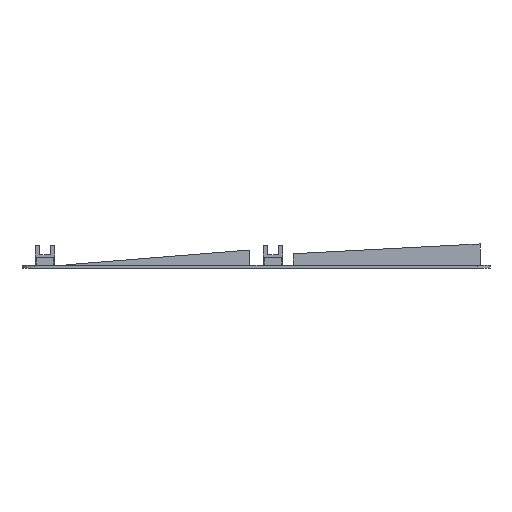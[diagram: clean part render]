
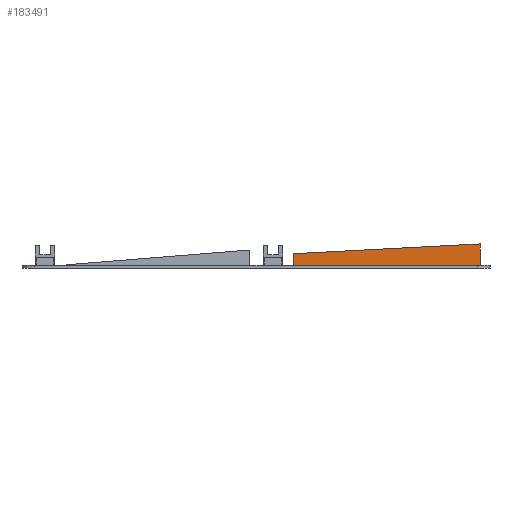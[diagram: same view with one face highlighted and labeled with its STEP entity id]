
A CAD part, left-side view. The second image highlights one B-rep face of the part: STEP entity #183491.
In plain terms, the highlighted planar face has unit normal (-1, 0, 0).
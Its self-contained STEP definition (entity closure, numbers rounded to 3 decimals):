
#72 = PLANE('',#73);
#73 = AXIS2_PLACEMENT_3D('',#74,#75,#76);
#74 = CARTESIAN_POINT('',(151.8,136.61,1.6));
#75 = DIRECTION('',(0.,0.,1.));
#76 = DIRECTION('',(1.,0.,-0.));
#71380 = EDGE_CURVE('',#71381,#71383,#71385,.T.);
#71381 = VERTEX_POINT('',#71382);
#71382 = CARTESIAN_POINT('',(84.8,8.3,1.6));
#71383 = VERTEX_POINT('',#71384);
#71384 = CARTESIAN_POINT('',(84.8,115.357,1.6));
#71385 = SURFACE_CURVE('',#71386,(#71390,#71396),.PCURVE_S1.);
#71386 = LINE('',#71387,#71388);
#71387 = CARTESIAN_POINT('',(84.8,98.579,1.6));
#71388 = VECTOR('',#71389,1.);
#71389 = DIRECTION('',(0.,1.,0.));
#71390 = PCURVE('',#72,#71391);
#71391 = DEFINITIONAL_REPRESENTATION('',(#71392),#71395);
#71392 = B_SPLINE_CURVE_WITH_KNOTS('',1,(#71393,#71394),.UNSPECIFIED.,
  .F.,.F.,(2,2),(-90.279,16.777),
  .PIECEWISE_BEZIER_KNOTS.);
#71393 = CARTESIAN_POINT('',(-67.,-128.31));
#71394 = CARTESIAN_POINT('',(-67.,-21.253));
#71395 = ( GEOMETRIC_REPRESENTATION_CONTEXT(2) 
PARAMETRIC_REPRESENTATION_CONTEXT() REPRESENTATION_CONTEXT('2D SPACE',''
  ) );
#71396 = PCURVE('',#71397,#71402);
#71397 = PLANE('',#71398);
#71398 = AXIS2_PLACEMENT_3D('',#71399,#71400,#71401);
#71399 = CARTESIAN_POINT('',(84.8,60.549,6.155));
#71400 = DIRECTION('',(1.,0.,0.));
#71401 = DIRECTION('',(0.,1.,0.));
#71402 = DEFINITIONAL_REPRESENTATION('',(#71403),#71406);
#71403 = B_SPLINE_CURVE_WITH_KNOTS('',1,(#71404,#71405),.UNSPECIFIED.,
  .F.,.F.,(2,2),(-90.279,16.777),
  .PIECEWISE_BEZIER_KNOTS.);
#71404 = CARTESIAN_POINT('',(-52.249,-4.555));
#71405 = CARTESIAN_POINT('',(54.807,-4.555));
#71406 = ( GEOMETRIC_REPRESENTATION_CONTEXT(2) 
PARAMETRIC_REPRESENTATION_CONTEXT() REPRESENTATION_CONTEXT('2D SPACE',''
  ) );
#71423 = PLANE('',#71424);
#71424 = AXIS2_PLACEMENT_3D('',#71425,#71426,#71427);
#71425 = CARTESIAN_POINT('',(84.8,115.357,1.2));
#71426 = DIRECTION('',(0.,-1.,0.));
#71427 = DIRECTION('',(0.,0.,1.));
#71473 = PLANE('',#71474);
#71474 = AXIS2_PLACEMENT_3D('',#71475,#71476,#71477);
#71475 = CARTESIAN_POINT('',(84.8,8.3,13.831));
#71476 = DIRECTION('',(-0.,1.,0.));
#71477 = DIRECTION('',(0.,0.,-1.));
#183491 = ADVANCED_FACE('',(#183492),#71397,.F.);
#183492 = FACE_BOUND('',#183493,.F.);
#183493 = EDGE_LOOP('',(#183494,#183517,#183518,#183541));
#183494 = ORIENTED_EDGE('',*,*,#183495,.T.);
#183495 = EDGE_CURVE('',#183496,#71381,#183498,.T.);
#183496 = VERTEX_POINT('',#183497);
#183497 = CARTESIAN_POINT('',(84.8,8.3,13.831));
#183498 = SURFACE_CURVE('',#183499,(#183503,#183510),.PCURVE_S1.);
#183499 = LINE('',#183500,#183501);
#183500 = CARTESIAN_POINT('',(84.8,8.3,13.831));
#183501 = VECTOR('',#183502,1.);
#183502 = DIRECTION('',(0.,0.,-1.));
#183503 = PCURVE('',#71397,#183504);
#183504 = DEFINITIONAL_REPRESENTATION('',(#183505),#183509);
#183505 = LINE('',#183506,#183507);
#183506 = CARTESIAN_POINT('',(-52.249,7.677));
#183507 = VECTOR('',#183508,1.);
#183508 = DIRECTION('',(0.,-1.));
#183509 = ( GEOMETRIC_REPRESENTATION_CONTEXT(2) 
PARAMETRIC_REPRESENTATION_CONTEXT() REPRESENTATION_CONTEXT('2D SPACE',''
  ) );
#183510 = PCURVE('',#71473,#183511);
#183511 = DEFINITIONAL_REPRESENTATION('',(#183512),#183516);
#183512 = LINE('',#183513,#183514);
#183513 = CARTESIAN_POINT('',(0.,0.));
#183514 = VECTOR('',#183515,1.);
#183515 = DIRECTION('',(1.,0.));
#183516 = ( GEOMETRIC_REPRESENTATION_CONTEXT(2) 
PARAMETRIC_REPRESENTATION_CONTEXT() REPRESENTATION_CONTEXT('2D SPACE',''
  ) );
#183517 = ORIENTED_EDGE('',*,*,#71380,.T.);
#183518 = ORIENTED_EDGE('',*,*,#183519,.T.);
#183519 = EDGE_CURVE('',#71383,#183520,#183522,.T.);
#183520 = VERTEX_POINT('',#183521);
#183521 = CARTESIAN_POINT('',(84.8,115.357,8.241));
#183522 = SURFACE_CURVE('',#183523,(#183527,#183534),.PCURVE_S1.);
#183523 = LINE('',#183524,#183525);
#183524 = CARTESIAN_POINT('',(84.8,115.357,1.2));
#183525 = VECTOR('',#183526,1.);
#183526 = DIRECTION('',(0.,0.,1.));
#183527 = PCURVE('',#71397,#183528);
#183528 = DEFINITIONAL_REPRESENTATION('',(#183529),#183533);
#183529 = LINE('',#183530,#183531);
#183530 = CARTESIAN_POINT('',(54.807,-4.955));
#183531 = VECTOR('',#183532,1.);
#183532 = DIRECTION('',(0.,1.));
#183533 = ( GEOMETRIC_REPRESENTATION_CONTEXT(2) 
PARAMETRIC_REPRESENTATION_CONTEXT() REPRESENTATION_CONTEXT('2D SPACE',''
  ) );
#183534 = PCURVE('',#71423,#183535);
#183535 = DEFINITIONAL_REPRESENTATION('',(#183536),#183540);
#183536 = LINE('',#183537,#183538);
#183537 = CARTESIAN_POINT('',(0.,0.));
#183538 = VECTOR('',#183539,1.);
#183539 = DIRECTION('',(1.,0.));
#183540 = ( GEOMETRIC_REPRESENTATION_CONTEXT(2) 
PARAMETRIC_REPRESENTATION_CONTEXT() REPRESENTATION_CONTEXT('2D SPACE',''
  ) );
#183541 = ORIENTED_EDGE('',*,*,#183542,.T.);
#183542 = EDGE_CURVE('',#183520,#183496,#183543,.T.);
#183543 = SURFACE_CURVE('',#183544,(#183548,#183555),.PCURVE_S1.);
#183544 = LINE('',#183545,#183546);
#183545 = CARTESIAN_POINT('',(84.8,115.357,8.241));
#183546 = VECTOR('',#183547,1.);
#183547 = DIRECTION('',(0.,-0.999,0.052));
#183548 = PCURVE('',#71397,#183549);
#183549 = DEFINITIONAL_REPRESENTATION('',(#183550),#183554);
#183550 = LINE('',#183551,#183552);
#183551 = CARTESIAN_POINT('',(54.807,2.086));
#183552 = VECTOR('',#183553,1.);
#183553 = DIRECTION('',(-0.999,0.052));
#183554 = ( GEOMETRIC_REPRESENTATION_CONTEXT(2) 
PARAMETRIC_REPRESENTATION_CONTEXT() REPRESENTATION_CONTEXT('2D SPACE',''
  ) );
#183555 = PCURVE('',#183556,#183561);
#183556 = PLANE('',#183557);
#183557 = AXIS2_PLACEMENT_3D('',#183558,#183559,#183560);
#183558 = CARTESIAN_POINT('',(84.8,115.357,8.241));
#183559 = DIRECTION('',(0.,-0.052,-0.999));
#183560 = DIRECTION('',(0.,-0.999,0.052));
#183561 = DEFINITIONAL_REPRESENTATION('',(#183562),#183566);
#183562 = LINE('',#183563,#183564);
#183563 = CARTESIAN_POINT('',(0.,0.));
#183564 = VECTOR('',#183565,1.);
#183565 = DIRECTION('',(1.,0.));
#183566 = ( GEOMETRIC_REPRESENTATION_CONTEXT(2) 
PARAMETRIC_REPRESENTATION_CONTEXT() REPRESENTATION_CONTEXT('2D SPACE',''
  ) );
